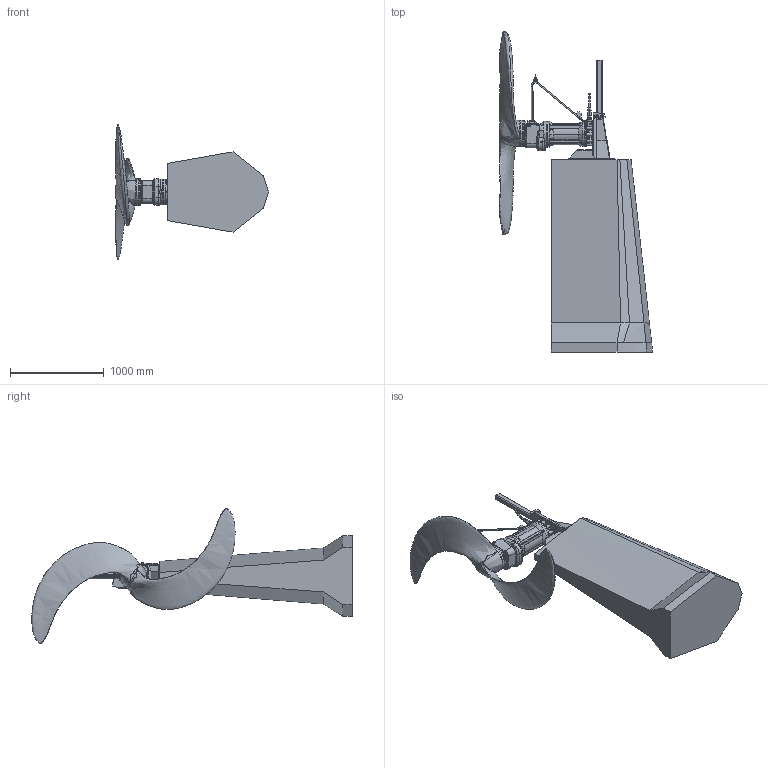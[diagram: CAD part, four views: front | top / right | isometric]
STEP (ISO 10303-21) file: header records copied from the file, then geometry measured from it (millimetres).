
FILE_DESCRIPTION (( 'STEP AP214' ), '1' );
FILE_NAME ('XSB2500 CP 2050_MSD.STEP', '2013-04-26T08:41:39', ( 'HP' ), ( '' ), 'SwSTEP 2.0', 'SolidWorks 2011', '' );
FILE_SCHEMA (( 'AUTOMOTIVE_DESIGN' ));
Products named in the file (1): XSB2500 CP 2050_MSD
Bounding box: 1638.61 x 3423.18 x 1446.33 mm (x, y, z)
Volume: 854545876.5 mm3; surface area: 10093520.8 mm2
Topology: 1 solids, 1 shells, 1746 faces, 4341 edges, 2545 vertices
Faces by surface type: bspline 520, plane 449, cylinder 376, torus 259, cone 76, sphere 66
Entity records: 420333 total; most frequent: CARTESIAN_POINT 382646, ORIENTED_EDGE 8520, DIRECTION 7195, EDGE_CURVE 4260, AXIS2_PLACEMENT_3D 2871, VERTEX_POINT 2540, EDGE_LOOP 1806, FACE_OUTER_BOUND 1746
